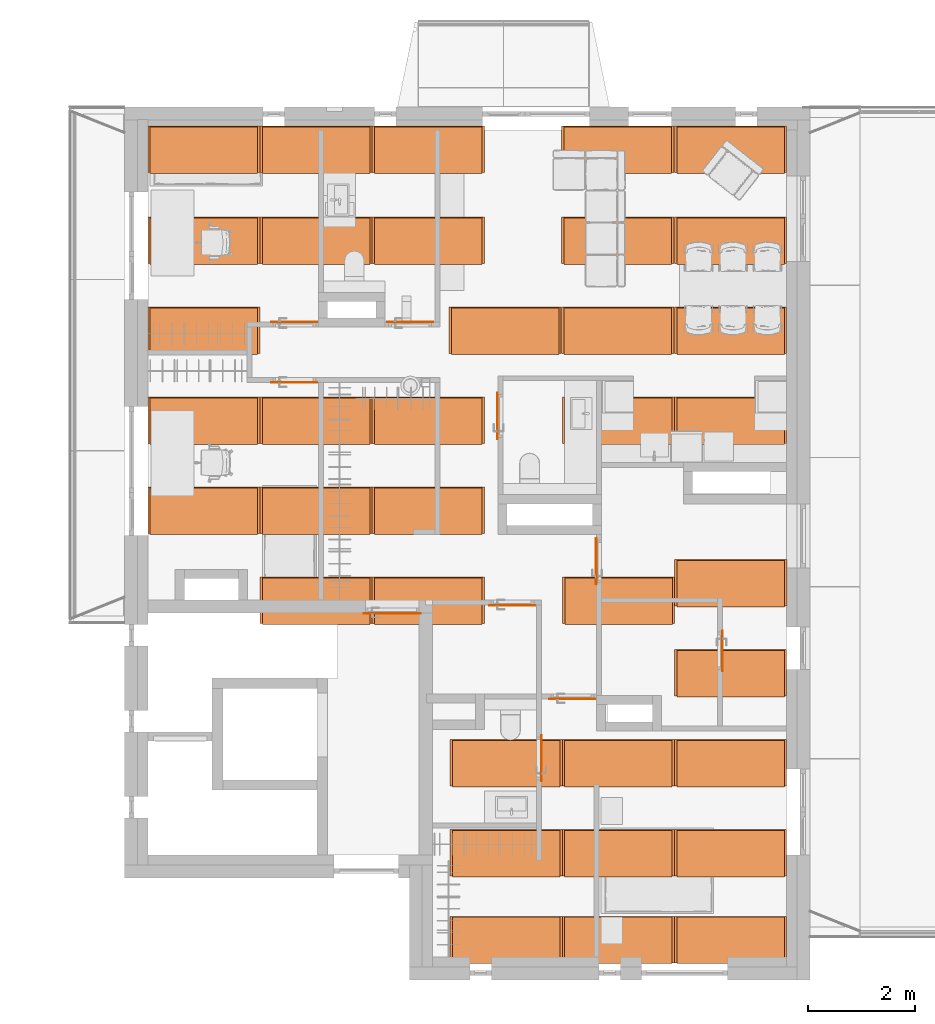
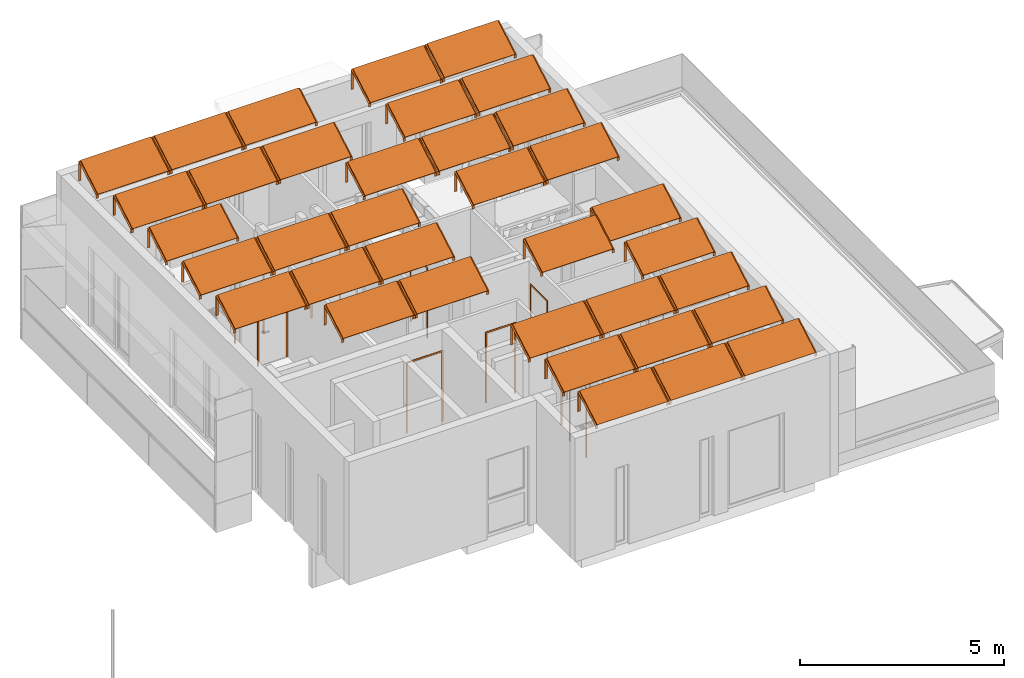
# One storey, part 39 of 57: 46 proxies.
"""IFC2X3 building model written with IfcOpenShell, lengths in millimetres."""

from ifc_helpers import new_model, entity, si_unit, converted_unit, direction, frame, frame_2d, origin, origin_2d_with_axis, place, context, subcontext, project, spatial, polyline, rectangle, outline, extrude, source, transform, mapped, material, material_list, type_object, type_shapes, element, save


model = new_model("IFC2X3")

# Units and contexts
model_context = context("Model", 3, precision=0.01, world=origin(), true_north=direction((6.123233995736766e-17, 1.0)))
plan_context = context("Plan", 3, precision=0.01, world=origin(), true_north=direction((6.123233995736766e-17, 1.0)))
body_context = subcontext(model_context, "Body", "Model", "MODEL_VIEW")
ifc_project = project(units=[si_unit("LENGTHUNIT", "METRE", prefix="MILLI"), converted_unit("PLANEANGLEUNIT", "DEGREE", entity("IfcPlaneAngleMeasure", 0.017453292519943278), si_unit("PLANEANGLEUNIT", "RADIAN"), dimensions=[0, 0, 0, 0, 0, 0, 0]), si_unit("AREAUNIT", "SQUARE_METRE")], contexts=[model_context, plan_context])

# Site, building, storey, space
site_placement = place(None, origin())
site = spatial("IfcSite", under=ifc_project, at=site_placement, Name="Default", CompositionType="ELEMENT")
building_placement = place(site_placement, origin())
building = spatial("IfcBuilding", under=site, at=building_placement, CompositionType="ELEMENT")
storey_placement = place(building_placement, frame((0.0, 0.0, 12811.000000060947)))
storey = spatial("IfcBuildingStorey", under=building, at=storey_placement, Name="5K", CompositionType="ELEMENT", Elevation=12811.000000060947)
space_1_placement = place(storey_placement, origin())
space_1 = spatial("IfcSpace", under=storey, at=space_1_placement, Name="5-12.1", CompositionType="ELEMENT", InteriorOrExteriorSpace="INTERNAL")

# Proxy
ifc_material_1 = material(Name="<Unnamed>")
building_element_proxy_type_1 = type_object("IfcBuildingElementProxyType", Name="Door-casing_Rectangle:Door-casing_Rectangle", PredefinedType="NOTDEFINED", material=ifc_material_1)
shared_shape_1 = source(origin(), body_context, "Body", "SweptSolid", [
    extrude(rectangle(XDim=9.999999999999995, YDim=49.99999999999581, at=origin_2d_with_axis()), frame((-505.0, 5.0, 0.0), z_axis=(0.0, 0.0, 1.0), x_axis=(0.0, 1.0, 0.0)), (0.0, 0.0, 1.0), 2130.000000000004),
    extrude(rectangle(XDim=9.999999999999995, YDim=50.0000000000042, at=origin_2d_with_axis()), frame((505.0, 5.0, 0.0), z_axis=(0.0, 0.0, 1.0), x_axis=(0.0, 1.0, 0.0)), (0.0, 0.0, 1.0), 2130.000000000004),
    extrude(rectangle(XDim=9.999999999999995, YDim=960.0000000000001, at=origin_2d_with_axis()), frame((0.0, 5.0, 2080.0), z_axis=(0.0, 0.0, 1.0), x_axis=(0.0, 1.0, 0.0)), (0.0, 0.0, 1.0), 50.000000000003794),
])
type_shapes(building_element_proxy_type_1, [shared_shape_1])
proxy_1_placement = place(space_1_placement, frame((4554.997197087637, 6404.999959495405, 0.0), z_axis=(0.0, 0.0, 1.0), x_axis=(-1.0, 0.0, 0.0)))
element("IfcBuildingElementProxy", 1, at=proxy_1_placement, inside=space_1, type_object=building_element_proxy_type_1, material=ifc_material_1, Name="Door-casing_Rectangle:Door-casing_Rectangle", ObjectType="Door-casing_Rectangle:Door-casing_Rectangle", context=body_context, shape_type="MappedRepresentation", body=[
    mapped(shared_shape_1, transform((0.0, 0.0, 0.0), scale=1.0)),
])

# Space
space_2_placement = place(storey_placement, origin())
space_2 = spatial("IfcSpace", under=storey, at=space_2_placement, Name="5-12.12", CompositionType="ELEMENT", InteriorOrExteriorSpace="INTERNAL")

# Proxy
ifc_material_2 = material(Name="_K. Puit. Peitsitud ja lakitud")
building_element_proxy_type_2 = type_object("IfcBuildingElementProxyType", Name="Door-casing_Rectangle:Door-casing_Rectangle", PredefinedType="NOTDEFINED", material=ifc_material_2)
shared_shape_2 = source(origin(), body_context, "Body", "SweptSolid", [
    extrude(rectangle(XDim=9.999999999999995, YDim=49.99999999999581, at=origin_2d_with_axis()), frame((-405.0, 5.0, 0.0), z_axis=(0.0, 0.0, 1.0), x_axis=(0.0, 1.0, 0.0)), (0.0, 0.0, 1.0), 2130.000000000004),
    extrude(rectangle(XDim=9.999999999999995, YDim=50.0000000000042, at=origin_2d_with_axis()), frame((405.0, 5.0, 0.0), z_axis=(0.0, 0.0, 1.0), x_axis=(0.0, 1.0, 0.0)), (0.0, 0.0, 1.0), 2130.000000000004),
    extrude(rectangle(XDim=9.999999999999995, YDim=760.0000000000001, at=origin_2d_with_axis()), frame((0.0, 5.0, 2080.0), z_axis=(0.0, 0.0, 1.0), x_axis=(0.0, 1.0, 0.0)), (0.0, 0.0, 1.0), 50.000000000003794),
])
type_shapes(building_element_proxy_type_2, [shared_shape_2])
proxy_2_placement = place(space_2_placement, frame((2730.0, 10701.0, 0.0), z_axis=(0.0, 0.0, 1.0), x_axis=(-1.0, 0.0, 0.0)))
element("IfcBuildingElementProxy", 2, at=proxy_2_placement, inside=space_2, type_object=building_element_proxy_type_2, material=ifc_material_2, Name="Door-casing_Rectangle:Door-casing_Rectangle", ObjectType="Door-casing_Rectangle:Door-casing_Rectangle", context=body_context, shape_type="MappedRepresentation", body=[
    mapped(shared_shape_2, transform((0.0, 0.0, 0.0), scale=1.0)),
])

# Space
space_3_placement = place(storey_placement, origin())
space_3 = spatial("IfcSpace", under=storey, at=space_3_placement, Name="5-12.13", CompositionType="ELEMENT", InteriorOrExteriorSpace="INTERNAL")

# Proxy
proxy_3_placement = place(space_3_placement, frame((2730.0, 11822.0, 0.0)))
element("IfcBuildingElementProxy", 3, at=proxy_3_placement, inside=space_3, type_object=building_element_proxy_type_2, material=ifc_material_2, Name="Door-casing_Rectangle:Door-casing_Rectangle", ObjectType="Door-casing_Rectangle:Door-casing_Rectangle", context=body_context, shape_type="MappedRepresentation", body=[
    mapped(shared_shape_2, transform((0.0, 0.0, 0.0), scale=1.0)),
])

# Space
space_4_placement = place(storey_placement, origin())
space_4 = spatial("IfcSpace", under=storey, at=space_4_placement, Name="5-12.11", CompositionType="ELEMENT", InteriorOrExteriorSpace="INTERNAL")

# Proxy
proxy_4_placement = place(space_4_placement, frame((4886.0, 11822.0, 0.0)))
element("IfcBuildingElementProxy", 4, at=proxy_4_placement, inside=space_4, type_object=building_element_proxy_type_2, material=ifc_material_2, Name="Door-casing_Rectangle:Door-casing_Rectangle", ObjectType="Door-casing_Rectangle:Door-casing_Rectangle", context=body_context, shape_type="MappedRepresentation", body=[
    mapped(shared_shape_2, transform((0.0, 0.0, 0.0), scale=1.0)),
])

# Space
space_5_placement = place(storey_placement, origin())
space_5 = spatial("IfcSpace", under=storey, at=space_5_placement, Name="5-12.3", CompositionType="ELEMENT", InteriorOrExteriorSpace="INTERNAL")

# Proxies
for number, where, z_axis, x_axis, name in (
    (5, (6520.0, 10075.0, 0.0), (0.0, 0.0, 1.0), (0.0, 1.0, 0.0), "Door-casing_Rectangle:Door-casing_Rectangle"),
    (6, (8358.0, 7370.0, 0.0), (0.0, 0.0, 1.0), (0.0, 1.0, 0.0), "Door-casing_Rectangle:Door-casing_Rectangle"),
):
    element("IfcBuildingElementProxy", number, at=place(space_5_placement, frame(where, z_axis=z_axis, x_axis=x_axis)), inside=space_5, type_object=building_element_proxy_type_2, material=ifc_material_2, Name=name, ObjectType="Door-casing_Rectangle:Door-casing_Rectangle", context=body_context, shape_type="MappedRepresentation", body=[
        mapped(shared_shape_2, transform((0.0, 0.0, 0.0), scale=1.0)),
    ])

# Space
space_6_placement = place(storey_placement, origin())
space_6 = spatial("IfcSpace", under=storey, at=space_6_placement, Name="5-12.7", CompositionType="ELEMENT", InteriorOrExteriorSpace="INTERNAL")

# Proxies
for number, where, z_axis, x_axis, name in (
    (7, (7332.0, 3698.0, 0.0), (0.0, 0.0, 1.0), (0.0, -1.0, 0.0), "Door-casing_Rectangle:Door-casing_Rectangle"),
    (8, (7908.0, 4808.0, 0.0), (0.0, 0.0, 1.0), (-1.0, 0.0, 0.0), "Door-casing_Rectangle:Door-casing_Rectangle"),
):
    element("IfcBuildingElementProxy", number, at=place(space_6_placement, frame(where, z_axis=z_axis, x_axis=x_axis)), inside=space_6, type_object=building_element_proxy_type_2, material=ifc_material_2, Name=name, ObjectType="Door-casing_Rectangle:Door-casing_Rectangle", context=body_context, shape_type="MappedRepresentation", body=[
        mapped(shared_shape_2, transform((0.0, 0.0, 0.0), scale=1.0)),
    ])

# Space
space_7_placement = place(storey_placement, origin())
space_7 = spatial("IfcSpace", under=storey, at=space_7_placement, Name="5-12.9", CompositionType="ELEMENT", InteriorOrExteriorSpace="INTERNAL")

# Proxy
proxy_5_placement = place(space_7_placement, frame((6790.0, 6552.999959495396, 0.0), z_axis=(0.0, 0.0, 1.0), x_axis=(-1.0, 0.0, 0.0)))
element("IfcBuildingElementProxy", 9, at=proxy_5_placement, inside=space_7, type_object=building_element_proxy_type_2, material=ifc_material_2, Name="Door-casing_Rectangle:Door-casing_Rectangle", ObjectType="Door-casing_Rectangle:Door-casing_Rectangle", context=body_context, shape_type="MappedRepresentation", body=[
    mapped(shared_shape_2, transform((0.0, 0.0, 0.0), scale=1.0)),
])

# Space
space_8_placement = place(storey_placement, origin())
space_8 = spatial("IfcSpace", under=storey, at=space_8_placement, Name="5-12.6", CompositionType="ELEMENT", InteriorOrExteriorSpace="INTERNAL")

# Proxies
building_element_proxy_type_3 = type_object("IfcBuildingElementProxyType", Name="Door-casing_Rectangle:Door-casing_Rectangle", PredefinedType="NOTDEFINED", material=ifc_material_2)
shared_shape_3 = source(origin(), body_context, "Body", "SweptSolid", [
    extrude(rectangle(XDim=9.999999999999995, YDim=49.99999999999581, at=origin_2d_with_axis()), frame((-355.0, 5.0, 0.0), z_axis=(0.0, 0.0, 1.0), x_axis=(0.0, 1.0, 0.0)), (0.0, 0.0, 1.0), 2130.000000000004),
    extrude(rectangle(XDim=9.999999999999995, YDim=50.0000000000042, at=origin_2d_with_axis()), frame((355.0, 5.0, 0.0), z_axis=(0.0, 0.0, 1.0), x_axis=(0.0, 1.0, 0.0)), (0.0, 0.0, 1.0), 2130.000000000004),
    extrude(rectangle(XDim=9.999999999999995, YDim=660.0000000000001, at=origin_2d_with_axis()), frame((0.0, 5.0, 2080.0), z_axis=(0.0, 0.0, 1.0), x_axis=(0.0, 1.0, 0.0)), (0.0, 0.0, 1.0), 50.000000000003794),
])
type_shapes(building_element_proxy_type_3, [shared_shape_3])
proxy_6_placement = place(space_8_placement, frame((10700.0, 5700.0, 0.0), z_axis=(0.0, 0.0, 1.0), x_axis=(0.0, -1.0, 0.0)))
element("IfcBuildingElementProxy", 10, at=proxy_6_placement, inside=space_8, type_object=building_element_proxy_type_3, material=ifc_material_2, Name="Door-casing_Rectangle:Door-casing_Rectangle", ObjectType="Door-casing_Rectangle:Door-casing_Rectangle", context=body_context, shape_type="MappedRepresentation", body=[
    mapped(shared_shape_3, transform((0.0, 0.0, 0.0), scale=1.0)),
])
ifc_material_3 = material(Name="Solar Panel. Panel")
ifc_material_4 = material(Name="Solar Panel. Frame")
ifc_material_5 = material(Name="Solar Panel. Bracket")
ifc_material_list = material_list([ifc_material_3, ifc_material_4, ifc_material_5])
building_element_proxy_type_4 = type_object("IfcBuildingElementProxyType", Name="JSO_Solar-panel (1):JSO_Solar-panel (1)", PredefinedType="NOTDEFINED", material=ifc_material_list)
shared_shape_4 = source(origin(), body_context, "Body", "SweptSolid", [
    extrude(rectangle(XDim=10.00000000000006, YDim=979.9999999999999, at=frame_2d((8.482103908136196e-14, -5.684341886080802e-14), x_axis=(1.0, 0.0))), frame((-990.0, 420.51270189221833, 371.65063509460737), z_axis=(1.0, 0.0, 0.0), x_axis=(0.0, 0.49999999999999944, -0.866025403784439)), (0.0, 0.0, 1.0), 1979.9999999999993),
    extrude(outline(polyline([(-1000.0, -500.0), (1000.0, -500.0), (1000.0, 500.0), (-1000.0, 500.0), (-1000.0, -500.0)]), holes=[polyline([(-990.0, -490.0), (-990.0, 490.0), (990.0, 490.0), (990.0, -490.0), (-990.0, -490.0)])]), frame((0.0, 433.012701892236, 350.0), z_axis=(0.0, -0.4999999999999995, 0.8660254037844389), x_axis=(-1.0, 0.0, 0.0)), (0.0, 0.0, 1.0), 30.000000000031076),
    extrude(outline(polyline([(73.55662432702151, -433.0127018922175), (173.55662432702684, -433.0127018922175), (173.55662432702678, -428.01270189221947), (76.44337567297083, -428.01270189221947), (-417.78312163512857, 428.01270189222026), (173.55662432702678, 428.01270189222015), (173.55662432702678, 433.01270189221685), (-426.44337567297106, 433.01270189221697), (73.55662432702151, -433.0127018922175)])), frame((-1045.0, 433.0127018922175, 173.55662432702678), z_axis=(1.0, 0.0, 0.0), x_axis=(0.0, 0.0, -1.0)), (0.0, 0.0, 1.0), 70.00000000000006),
    extrude(outline(polyline([(-417.78312163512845, 428.0127018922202), (173.55662432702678, 428.0127018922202), (173.55662432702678, 433.0127018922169), (-426.44337567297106, 433.0127018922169), (73.55662432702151, -433.0127018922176), (173.55662432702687, -433.0127018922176), (173.55662432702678, -428.0127018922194), (76.44337567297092, -428.0127018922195), (-417.78312163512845, 428.0127018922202)])), frame((975.0, 433.0127018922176, 173.55662432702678), z_axis=(1.0, 0.0, 0.0), x_axis=(0.0, 0.0, -1.0)), (0.0, 0.0, 1.0), 70.00000000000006),
])
type_shapes(building_element_proxy_type_4, [shared_shape_4])
for number, where, name in (
    (11, (10855.0, 14611.996588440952, 3510.23717884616), "JSO_Solar-panel (1):JSO_Solar-panel (1)"),
    (12, (8755.0, 14611.996588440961, 3494.2371788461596), "JSO_Solar-panel (1):JSO_Solar-panel (1)"),
    (13, (5225.0, 14611.996588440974, 3453.9869822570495), "JSO_Solar-panel (1):JSO_Solar-panel (1)"),
    (14, (3135.0, 14611.99658844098, 3453.9869822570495), "JSO_Solar-panel (1):JSO_Solar-panel (1)"),
    (15, (1045.0, 14611.996588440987, 3453.9869822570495), "JSO_Solar-panel (1):JSO_Solar-panel (1)"),
    (16, (10855.0, 12911.996588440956, 3510.23717884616), "JSO_Solar-panel (1):JSO_Solar-panel (1)"),
    (17, (8755.0, 12911.996588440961, 3494.2371788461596), "JSO_Solar-panel (1):JSO_Solar-panel (1)"),
    (18, (5225.0, 12911.996588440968, 3453.9869822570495), "JSO_Solar-panel (1):JSO_Solar-panel (1)"),
    (19, (3135.0, 12911.996588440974, 3453.9869822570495), "JSO_Solar-panel (1):JSO_Solar-panel (1)"),
    (20, (1045.0, 12911.99658844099, 3453.9869822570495), "JSO_Solar-panel (1):JSO_Solar-panel (1)"),
    (21, (10855.0, 11235.656842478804, 3510.23717884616), "JSO_Solar-panel (1):JSO_Solar-panel (1)"),
    (22, (8755.0, 11235.656842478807, 3494.2371788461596), "JSO_Solar-panel (1):JSO_Solar-panel (1)"),
    (23, (6655.0, 11235.656842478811, 3494.2371788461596), "JSO_Solar-panel (1):JSO_Solar-panel (1)"),
    (24, (5225.0, 9559.317096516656, 3503.794005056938), "JSO_Solar-panel (1):JSO_Solar-panel (1)"),
    (25, (3135.0, 9559.317096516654, 3503.794005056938), "JSO_Solar-panel (1):JSO_Solar-panel (1)"),
    (26, (1045.0, 9559.317096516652, 3503.794005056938), "JSO_Solar-panel (1):JSO_Solar-panel (1)"),
    (27, (5225.0, 7882.9773505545, 3503.794005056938), "JSO_Solar-panel (1):JSO_Solar-panel (1)"),
    (28, (3135.0, 7882.977350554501, 3503.794005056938), "JSO_Solar-panel (1):JSO_Solar-panel (1)"),
    (29, (1045.0, 7882.97735055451, 3503.794005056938), "JSO_Solar-panel (1):JSO_Solar-panel (1)"),
    (30, (10854.993534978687, 1506.5932908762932, 3510.2202807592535), "JSO_Solar-panel (1):JSO_Solar-panel (1)"),
    (31, (8764.993534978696, 1506.593290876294, 3510.2202807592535), "JSO_Solar-panel (1):JSO_Solar-panel (1)"),
    (32, (6674.993534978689, 1506.5932908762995, 3510.2202807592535), "JSO_Solar-panel (1):JSO_Solar-panel (1)"),
    (33, (10854.993534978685, -109.74645508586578, 3510.2202807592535), "JSO_Solar-panel (1):JSO_Solar-panel (1)"),
    (34, (8764.993534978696, -109.74645508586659, 3510.2202807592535), "JSO_Solar-panel (1):JSO_Solar-panel (1)"),
    (35, (6674.993534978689, -109.746455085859, 3510.2202807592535), "JSO_Solar-panel (1):JSO_Solar-panel (1)"),
    (36, (10859.99353497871, 6535.612528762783, 3510.3610157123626), "JSO_Solar-panel (1):JSO_Solar-panel (1)"),
    (37, (8769.993534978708, 6206.637604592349, 3510.3610157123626), "JSO_Solar-panel (1):JSO_Solar-panel (1)"),
    (38, (1045.0, 11235.656842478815, 3503.794005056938), "JSO_Solar-panel (1):JSO_Solar-panel (1)"),
    (39, (10855.0, 3182.9330368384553, 3510.2204627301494), "JSO_Solar-panel (1):JSO_Solar-panel (1)"),
    (40, (10855.0, 9559.317096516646, 3510.23717884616), "JSO_Solar-panel (1):JSO_Solar-panel (1)"),
    (41, (8765.0, 9559.317096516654, 3494.2371788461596), "JSO_Solar-panel (1):JSO_Solar-panel (1)"),
    (42, (5225.0, 6206.637604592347, 3503.794005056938), "JSO_Solar-panel (1):JSO_Solar-panel (1)"),
    (43, (3135.0, 6206.637604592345, 3503.794005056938), "JSO_Solar-panel (1):JSO_Solar-panel (1)"),
    (44, (10855.0, 4859.272782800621, 3510.2204627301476), "JSO_Solar-panel (1):JSO_Solar-panel (1)"),
    (45, (8765.0, 3182.933036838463, 3510.3610157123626), "JSO_Solar-panel (1):JSO_Solar-panel (1)"),
    (46, (6675.0, 3182.933036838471, 3510.3610157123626), "JSO_Solar-panel (1):JSO_Solar-panel (1)"),
):
    element("IfcBuildingElementProxy", number, at=place(storey_placement, frame(where)), inside=storey, type_object=building_element_proxy_type_4, material=ifc_material_list, Name=name, ObjectType="JSO_Solar-panel (1):JSO_Solar-panel (1)", context=body_context, shape_type="MappedRepresentation", body=[
        mapped(shared_shape_4, transform((0.0, 0.0, 0.0), scale=1.0)),
    ])

save(model, "model.ifc")
